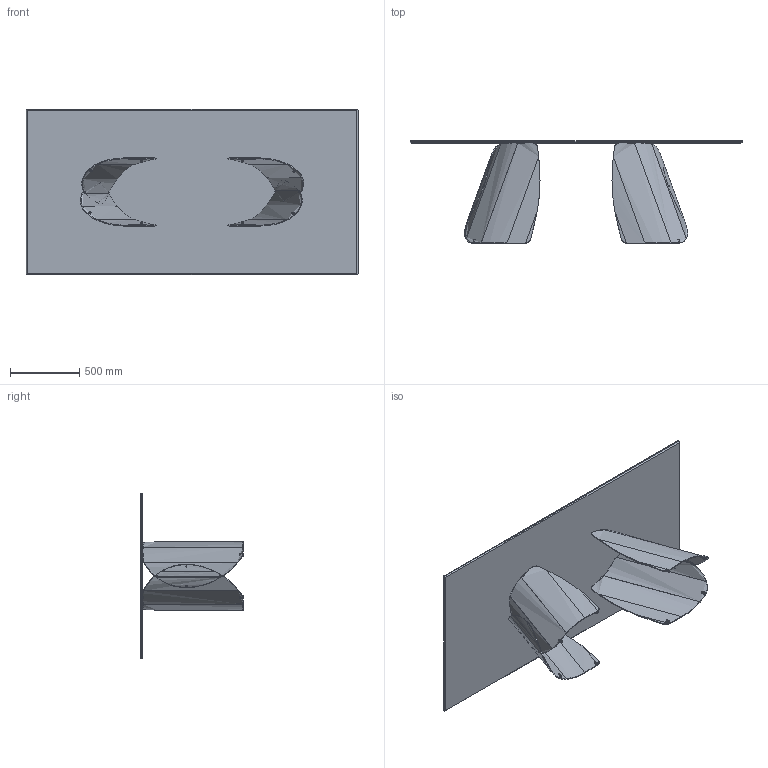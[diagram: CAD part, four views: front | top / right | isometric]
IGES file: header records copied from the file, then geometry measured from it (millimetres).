
Start section: SolidWorks IGES file using analytic representation for surfaces
Global section: file name: Y:\eforma\TECNICO\SOLIDWORKS\E-FORMA\1-TAVOLI\PERLA\02 parts\PA22C_Perla 239x119_Ceramic Rectangular.IGS; native system: SolidWorks 2022; preprocessor: SolidWorks 2022; author: eforma.tech; date: 240801.145306; units: millimetre
Bounding box: 2390 x 737.5 x 1190 mm (x, y, z)
Volume: 55256015.3 mm3; surface area: 14854903.7 mm2
Topology: 34 solids, 34 shells, 490 faces, 1090 edges, 668 vertices
Faces by surface type: revolution 244, bspline 130, plane 116
